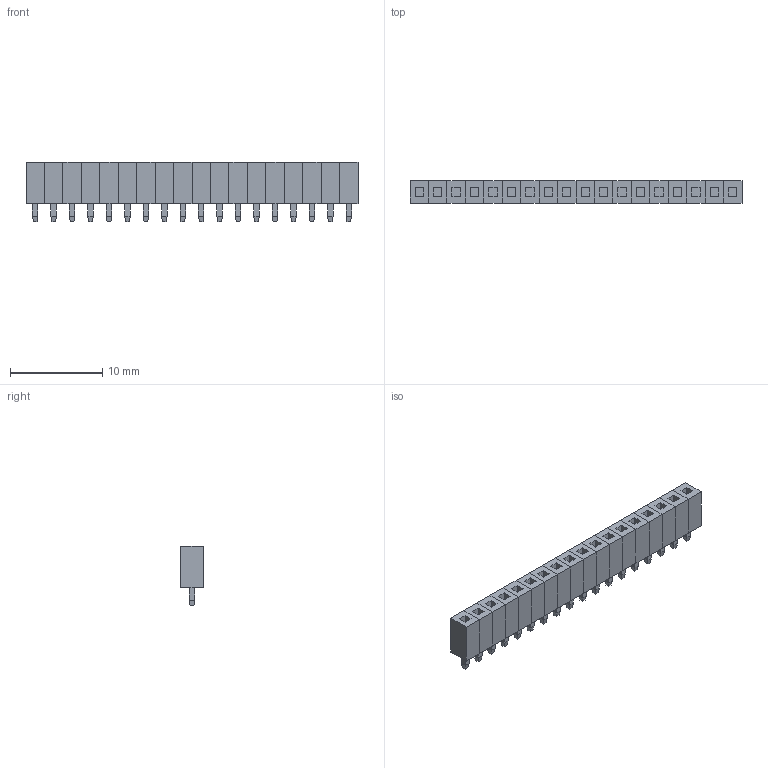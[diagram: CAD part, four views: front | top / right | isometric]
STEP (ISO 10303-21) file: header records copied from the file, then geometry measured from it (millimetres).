
FILE_DESCRIPTION(('FreeCAD Model'),'2;1');
FILE_NAME('Open CASCADE Shape Model','2023-12-07T04:38:13',('Author'),( ''),'Open CASCADE STEP processor 7.6','FreeCAD','Unknown');
FILE_SCHEMA(('AUTOMOTIVE_DESIGN { 1 0 10303 214 1 1 1 1 }'));
Length unit declared in the file: millimetre
Products named in the file (1): Group018
Bounding box: 36 x 2.4 x 6.5 mm (x, y, z)
Volume: 351 mm3; surface area: 817.5 mm2
Topology: 1 solids, 1 shells, 326 faces, 724 edges, 436 vertices
Faces by surface type: plane 326
Entity records: 20202 total; most frequent: CARTESIAN_POINT 3079, DIRECTION 2682, LINE 2028, VECTOR 2028, ORIENTED_EDGE 1448, PCURVE 1448, DEFINITIONAL_REPRESENTATION 1448, EDGE_CURVE 724
